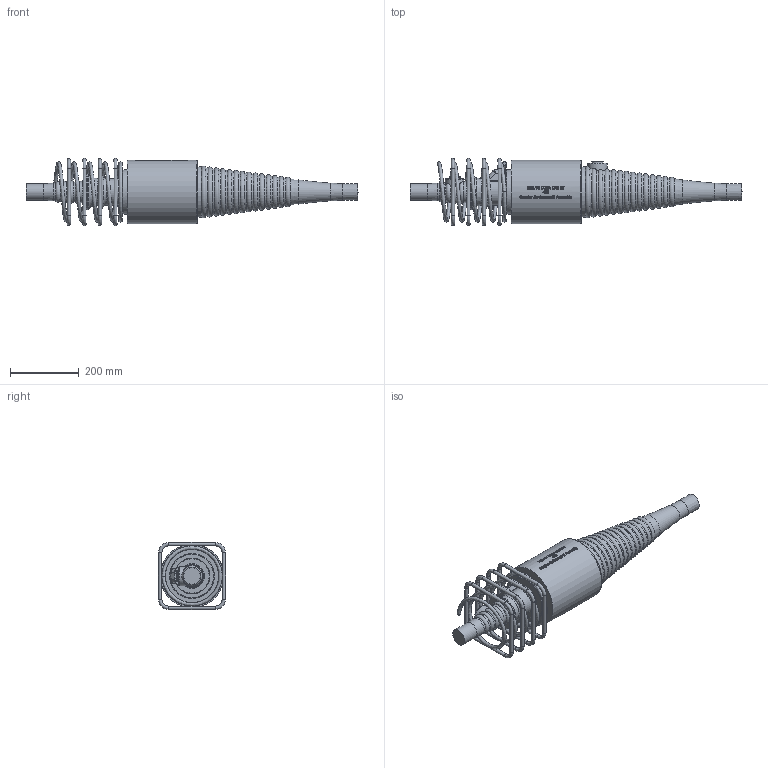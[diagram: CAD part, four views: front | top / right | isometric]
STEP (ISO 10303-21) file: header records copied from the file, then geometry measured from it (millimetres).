
FILE_DESCRIPTION(/* description */ (''),/* implementation_level */ '2;1');
FILE_NAME(/* name */ 'BBR VT CONA CMI BT 406_Coupler H Assembly_CS-34,28.stp',/* time_stamp */ '2025-04-29T15:26:15+02:00',/* author */ ('tk'),/* organization */ (''),/* preprocessor_version */ 'ST-DEVELOPER v20',/* originating_system */ 'Autodesk Inventor 2024',/* authorisation */ '');
FILE_SCHEMA (('AUTOMOTIVE_DESIGN { 1 0 10303 214 3 1 1 }'));
Products named in the file (1): BBR VT CONA CMI BT 406_Coupler H Assembly_CS-34,28
Bounding box: 965.07 x 195 x 195 mm (x, y, z)
Volume: 10655036.3 mm3; surface area: 551305.5 mm2
Topology: 6 solids, 6 shells, 915 faces, 2398 edges, 1551 vertices
Faces by surface type: bspline 377, plane 303, cylinder 98, torus 96, cone 29, sphere 12
Full cylindrical faces by diameter (mm): 10 x16, 32 x1, 34.158 x1, 49 x1, 55 x1, 57 x1, 104 x2, 130 x1, 185 x1
Entity records: 41117 total; most frequent: CARTESIAN_POINT 20238, ORIENTED_EDGE 4786, DIRECTION 3398, EDGE_CURVE 2393, VERTEX_POINT 1551, AXIS2_PLACEMENT_3D 1227, EDGE_LOOP 984, LINE 944
